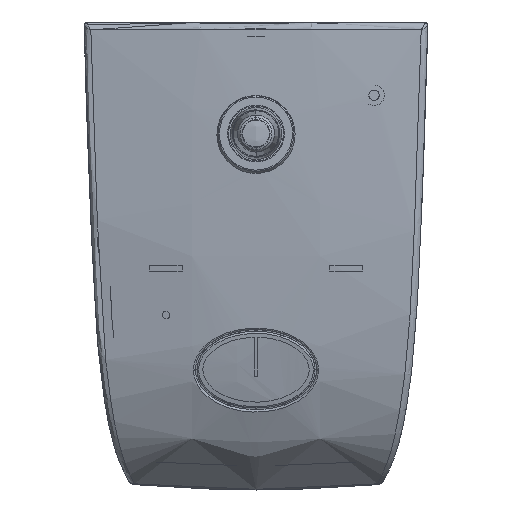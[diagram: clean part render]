
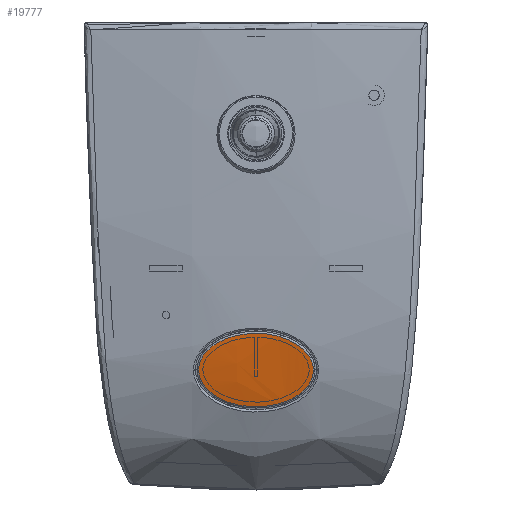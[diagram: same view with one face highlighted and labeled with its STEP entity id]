
A CAD part, left-side view. The second image highlights one B-rep face of the part: STEP entity #19777.
In plain terms, the highlighted free-form (B-spline) face has degree [3, 3] with [4, 7] control points.
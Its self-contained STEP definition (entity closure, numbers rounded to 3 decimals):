
#18514=CARTESIAN_POINT('',(-19.422,-118.134,
28.299));
#18515=CARTESIAN_POINT('',(-19.422,-117.807,
28.374));
#18516=CARTESIAN_POINT('',(-19.379,-117.112,
28.533));
#18517=CARTESIAN_POINT('',(-19.181,-116.098,
28.763));
#18518=CARTESIAN_POINT('',(-18.857,-115.117,
28.983));
#18519=CARTESIAN_POINT('',(-18.439,-114.204,
29.186));
#18520=CARTESIAN_POINT('',(-17.92,-113.322,
29.382));
#18521=CARTESIAN_POINT('',(-17.279,-112.442,
29.575));
#18522=CARTESIAN_POINT('',(-16.491,-111.552,
29.77));
#18523=CARTESIAN_POINT('',(-15.527,-110.649,
29.967));
#18524=CARTESIAN_POINT('',(-14.361,-109.745,
30.163));
#18525=CARTESIAN_POINT('',(-12.972,-108.858,
30.355));
#18526=CARTESIAN_POINT('',(-11.343,-108.015,
30.537));
#18527=CARTESIAN_POINT('',(-9.458,-107.242,
30.703));
#18528=CARTESIAN_POINT('',(-7.293,-106.571,
30.847));
#18529=CARTESIAN_POINT('',(-4.824,-106.043,
30.96));
#18530=CARTESIAN_POINT('',(-2.046,-105.714,
31.03));
#18531=CARTESIAN_POINT('',(0.871,-105.657,
31.042));
#18532=CARTESIAN_POINT('',(3.699,-105.879,
30.995));
#18533=CARTESIAN_POINT('',(6.238,-106.319,
30.901));
#18534=CARTESIAN_POINT('',(8.466,-106.911,
30.774));
#18535=CARTESIAN_POINT('',(10.415,-107.612,
30.623));
#18536=CARTESIAN_POINT('',(12.11,-108.391,
30.455));
#18537=CARTESIAN_POINT('',(13.572,-109.222,
30.276));
#18538=CARTESIAN_POINT('',(14.816,-110.08,
30.091));
#18539=CARTESIAN_POINT('',(15.859,-110.944,
29.903));
#18540=CARTESIAN_POINT('',(16.722,-111.798,
29.717));
#18541=CARTESIAN_POINT('',(17.431,-112.638,
29.532));
#18542=CARTESIAN_POINT('',(18.013,-113.469,
29.349));
#18543=CARTESIAN_POINT('',(18.49,-114.306,
29.164));
#18544=CARTESIAN_POINT('',(18.878,-115.174,
28.97));
#18545=CARTESIAN_POINT('',(19.183,-116.114,
28.759));
#18546=CARTESIAN_POINT('',(19.378,-117.108,
28.534));
#18547=CARTESIAN_POINT('',(19.422,-117.797,
28.376));
#18548=CARTESIAN_POINT('',(19.422,-118.134,
28.299));
#18550=CARTESIAN_POINT('',(19.422,-118.134,
28.299));
#18551=CARTESIAN_POINT('',(19.422,-118.45,
28.226));
#18552=CARTESIAN_POINT('',(19.382,-119.121,
28.071));
#18553=CARTESIAN_POINT('',(19.197,-120.104,
27.842));
#18554=CARTESIAN_POINT('',(18.893,-121.057,
27.616));
#18555=CARTESIAN_POINT('',(18.502,-121.94,
27.405));
#18556=CARTESIAN_POINT('',(18.019,-122.792,
27.199));
#18557=CARTESIAN_POINT('',(17.427,-123.639,
26.992));
#18558=CARTESIAN_POINT('',(16.704,-124.496,
26.78));
#18559=CARTESIAN_POINT('',(15.821,-125.366,
26.56));
#18560=CARTESIAN_POINT('',(14.754,-126.245,
26.334));
#18561=CARTESIAN_POINT('',(13.481,-127.115,
26.107));
#18562=CARTESIAN_POINT('',(11.986,-127.955,
25.882));
#18563=CARTESIAN_POINT('',(10.252,-128.739,
25.668));
#18564=CARTESIAN_POINT('',(8.258,-129.441,
25.473));
#18565=CARTESIAN_POINT('',(5.981,-130.026,
25.307));
#18566=CARTESIAN_POINT('',(3.399,-130.448,
25.185));
#18567=CARTESIAN_POINT('',(0.576,-130.641,
25.129));
#18568=CARTESIAN_POINT('',(-2.271,-130.557,
25.154));
#18569=CARTESIAN_POINT('',(-4.925,-130.226,
25.249));
#18570=CARTESIAN_POINT('',(-7.264,-129.72,
25.394));
#18571=CARTESIAN_POINT('',(-9.317,-129.09,
25.571));
#18572=CARTESIAN_POINT('',(-11.113,-128.37,
25.769));
#18573=CARTESIAN_POINT('',(-12.674,-127.587,
25.981));
#18574=CARTESIAN_POINT('',(-14.017,-126.766,
26.199));
#18575=CARTESIAN_POINT('',(-15.159,-125.928,
26.416));
#18576=CARTESIAN_POINT('',(-16.115,-125.091,
26.63));
#18577=CARTESIAN_POINT('',(-16.907,-124.268,
26.837));
#18578=CARTESIAN_POINT('',(-17.561,-123.459,
27.037));
#18579=CARTESIAN_POINT('',(-18.101,-122.658,
27.232));
#18580=CARTESIAN_POINT('',(-18.546,-121.849,
27.427));
#18581=CARTESIAN_POINT('',(-18.91,-121.007,
27.629));
#18582=CARTESIAN_POINT('',(-19.198,-120.094,
27.844));
#18583=CARTESIAN_POINT('',(-19.381,-119.128,
28.07));
#18584=CARTESIAN_POINT('',(-19.422,-118.46,
28.224));
#18585=CARTESIAN_POINT('',(-19.422,-118.134,
28.299));
#19643=VERTEX_POINT('',#18514);
#19644=VERTEX_POINT('',#18548);
#19742=CARTESIAN_POINT('',(-20.198,-105.381,
30.694));
#19743=CARTESIAN_POINT('',(-20.198,-106.938,
30.452));
#19744=CARTESIAN_POINT('',(-20.198,-110.432,
29.871));
#19745=CARTESIAN_POINT('',(-20.198,-115.992,
28.785));
#19746=CARTESIAN_POINT('',(-20.198,-122.931,
27.156));
#19747=CARTESIAN_POINT('',(-20.198,-127.864,
25.701));
#19748=CARTESIAN_POINT('',(-20.198,-130.712,
24.693));
#19749=CARTESIAN_POINT('',(-6.739,-105.46,
31.201));
#19750=CARTESIAN_POINT('',(-6.739,-107.02,
30.958));
#19751=CARTESIAN_POINT('',(-6.739,-110.523,
30.376));
#19752=CARTESIAN_POINT('',(-6.739,-116.099,
29.287));
#19753=CARTESIAN_POINT('',(-6.739,-123.061,
27.653));
#19754=CARTESIAN_POINT('',(-6.739,-128.018,
26.191));
#19755=CARTESIAN_POINT('',(-6.739,-130.884,
25.177));
#19756=CARTESIAN_POINT('',(6.739,-105.46,
31.201));
#19757=CARTESIAN_POINT('',(6.739,-107.02,
30.958));
#19758=CARTESIAN_POINT('',(6.739,-110.523,
30.376));
#19759=CARTESIAN_POINT('',(6.739,-116.099,
29.287));
#19760=CARTESIAN_POINT('',(6.739,-123.061,
27.653));
#19761=CARTESIAN_POINT('',(6.739,-128.018,
26.191));
#19762=CARTESIAN_POINT('',(6.739,-130.884,
25.177));
#19763=CARTESIAN_POINT('',(20.198,-105.381,
30.694));
#19764=CARTESIAN_POINT('',(20.198,-106.938,
30.452));
#19765=CARTESIAN_POINT('',(20.198,-110.432,
29.871));
#19766=CARTESIAN_POINT('',(20.198,-115.992,
28.786));
#19767=CARTESIAN_POINT('',(20.198,-122.93,
27.156));
#19768=CARTESIAN_POINT('',(20.198,-127.864,
25.701));
#19769=CARTESIAN_POINT('',(20.198,-130.712,
24.693));
#19770=B_SPLINE_SURFACE_WITH_KNOTS('',3,3,((#19742,#19743,#19744,#19745,#19746,
#19747,#19748),(#19749,#19750,#19751,#19752,#19753,#19754,#19755),(#19756,
#19757,#19758,#19759,#19760,#19761,#19762),(#19763,#19764,#19765,#19766,#19767,
#19768,#19769)),.UNSPECIFIED.,.F.,.F.,.F.,(4,4),(4,1,1,1,4),(0.345,
0.655),(105.623,110.327,116.197,
122.556,131.687),.UNSPECIFIED.);
#19772=ORIENTED_EDGE('',*,*,#19771,.T.);
#19774=ORIENTED_EDGE('',*,*,#19773,.T.);
#19775=EDGE_LOOP('',(#19772,#19774));
#19776=FACE_OUTER_BOUND('',#19775,.F.);
#19777=ADVANCED_FACE('',(#19776),#19770,.F.);
#18549=B_SPLINE_CURVE_WITH_KNOTS('',3,(#18514,#18515,#18516,#18517,#18518,
#18519,#18520,#18521,#18522,#18523,#18524,#18525,#18526,#18527,#18528,#18529,
#18530,#18531,#18532,#18533,#18534,#18535,#18536,#18537,#18538,#18539,#18540,
#18541,#18542,#18543,#18544,#18545,#18546,#18547,#18548),.UNSPECIFIED.,.F.,.F.,(
4,1,1,1,1,1,1,1,1,1,1,1,1,1,1,1,1,1,1,1,1,1,1,1,1,1,1,1,1,1,1,1,4),(0.,
0.02,0.042,0.063,0.083,
0.103,0.124,0.148,0.174,
0.203,0.235,0.271,0.311,
0.355,0.404,0.458,0.518,
0.574,0.624,0.669,0.709,
0.746,0.779,0.808,0.835,
0.859,0.881,0.901,0.92,
0.938,0.958,0.979,1.),.UNSPECIFIED.);
#18586=B_SPLINE_CURVE_WITH_KNOTS('',3,(#18550,#18551,#18552,#18553,#18554,
#18555,#18556,#18557,#18558,#18559,#18560,#18561,#18562,#18563,#18564,#18565,
#18566,#18567,#18568,#18569,#18570,#18571,#18572,#18573,#18574,#18575,#18576,
#18577,#18578,#18579,#18580,#18581,#18582,#18583,#18584,#18585),.UNSPECIFIED.,
.F.,.F.,(4,1,1,1,1,1,1,1,1,1,1,1,1,1,1,1,1,1,1,1,1,1,1,1,1,1,1,1,1,1,1,1,1,4),(
0.,0.019,0.041,0.061,0.08,
0.099,0.12,0.142,0.166,
0.193,0.224,0.257,0.295,
0.336,0.381,0.432,0.488,
0.546,0.598,0.644,0.686,
0.724,0.758,0.789,0.817,
0.842,0.864,0.885,0.904,
0.922,0.94,0.959,0.98,1.),
.UNSPECIFIED.);
#19771=EDGE_CURVE('',#19643,#19644,#18549,.T.);
#19773=EDGE_CURVE('',#19644,#19643,#18586,.T.);
